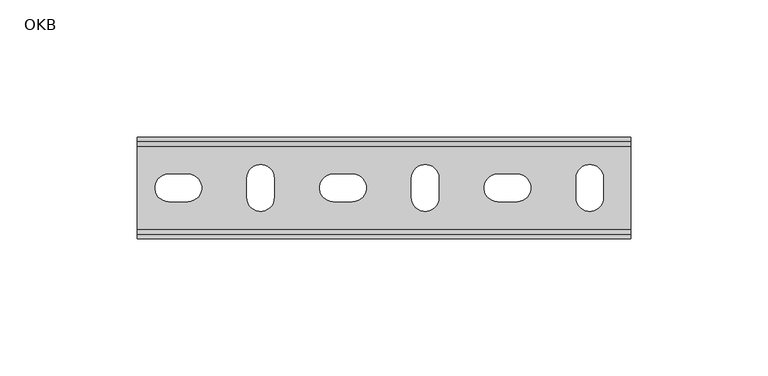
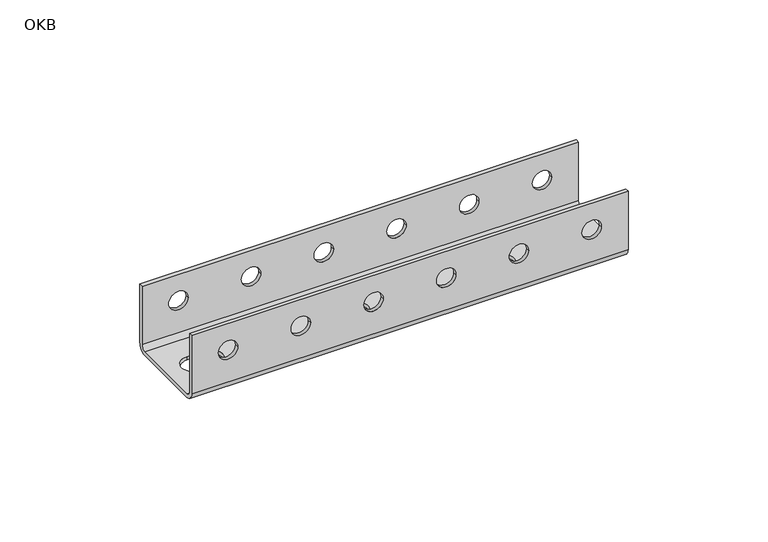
"""IFC4 building model written with IfcOpenShell, lengths in millimetres: proxy geometry, КМ Профиль_Опоры для консолей ОКМ, ОКВ : OKB."""

from ifc_helpers import new_model, si_unit, frame, origin, place, context, project, spatial, polyline, circle_curve, source, transform, mapped, element, save
from ifc_brep_helpers import plane_surface, cylinder_surface, revolved_surface, advanced_brep


def okb_c7ba4bf2(model_context):
    return source(origin(), model_context, "Body", "AdvancedBrep", [
        advanced_brep(
        [(0.0, 15.0, 0.0), (0.0, -15.0, 0.0), (0.0, -18.5, 3.5), (0.0, -18.5, 29.0), (0.0, -17.0, 29.0), (0.0, -17.0, 3.5), (0.0, -15.0, 1.5), (0.0, 15.0, 1.5), (0.0, 17.0, 3.5), (0.0, 17.0, 29.0), (0.0, 18.5, 29.0), (0.0, 18.5, 3.5), (180.0, -15.0, 0.0), (180.0, 15.0, 0.0), (180.0, 18.5, 3.5), (180.0, 18.5, 29.0), (180.0, 17.0, 29.0), (180.0, 17.0, 3.5), (180.0, 15.0, 1.5), (180.0, -15.0, 1.5), (180.0, -17.0, 3.5), (180.0, -17.0, 29.0), (180.0, -18.5, 29.0), (180.0, -18.5, 3.5), (71.5, -5.0, 0.0), (78.5, -5.0, 0.0), (78.5, 5.0, 0.0), (71.5, 5.0, 0.0), (131.5, -5.0, 0.0), (138.5, -5.0, 0.0), (138.5, 5.0, 0.0), (131.5, 5.0, 0.0), (100.0, 3.5, 0.0), (100.0, -3.5, 0.0), (110.0, -3.5, 0.0), (110.0, 3.5, 0.0), (160.0, 3.5, 0.0), (160.0, -3.5, 0.0), (170.0, -3.5, 0.0), (170.0, 3.5, 0.0), (40.0, 3.5, 0.0), (40.0, -3.5, 0.0), (50.0, -3.5, 0.0), (50.0, 3.5, 0.0), (11.5, -5.0, 0.0), (18.5, -5.0, 0.0), (18.5, 5.0, 0.0), (11.5, 5.0, 0.0), (49.0, -17.0, 17.5), (41.0, -17.0, 17.5), (79.0, -17.0, 17.5), (71.0, -17.0, 17.5), (109.0, -17.0, 17.5), (101.0, -17.0, 17.5), (139.0, -17.0, 17.5), (131.0, -17.0, 17.5), (169.0, -17.0, 17.5), (161.0, -17.0, 17.5), (19.0, -17.0, 17.5), (11.0, -17.0, 17.5), (41.0, -18.5, 17.5), (49.0, -18.5, 17.5), (71.0, -18.5, 17.5), (79.0, -18.5, 17.5), (101.0, -18.5, 17.5), (109.0, -18.5, 17.5), (131.0, -18.5, 17.5), (139.0, -18.5, 17.5), (161.0, -18.5, 17.5), (169.0, -18.5, 17.5), (11.0, -18.5, 17.5), (19.0, -18.5, 17.5), (78.5, -5.0, 1.5), (71.5, -5.0, 1.5), (71.5, 5.0, 1.5), (78.5, 5.0, 1.5), (138.5, -5.0, 1.5), (131.5, -5.0, 1.5), (131.5, 5.0, 1.5), (138.5, 5.0, 1.5), (100.0, -3.5, 1.5), (100.0, 3.5, 1.5), (110.0, 3.5, 1.5), (110.0, -3.5, 1.5), (160.0, -3.5, 1.5), (160.0, 3.5, 1.5), (170.0, 3.5, 1.5), (170.0, -3.5, 1.5), (40.0, -3.5, 1.5), (40.0, 3.5, 1.5), (50.0, 3.5, 1.5), (50.0, -3.5, 1.5), (18.5, -5.0, 1.5), (11.5, -5.0, 1.5), (11.5, 5.0, 1.5), (18.5, 5.0, 1.5), (49.0, 18.5, 17.5), (41.0, 18.5, 17.5), (79.0, 18.5, 17.5), (71.0, 18.5, 17.5), (109.0, 18.5, 17.5), (101.0, 18.5, 17.5), (139.0, 18.5, 17.5), (131.0, 18.5, 17.5), (169.0, 18.5, 17.5), (161.0, 18.5, 17.5), (19.0, 18.5, 17.5), (11.0, 18.5, 17.5), (41.0, 17.0, 17.5), (49.0, 17.0, 17.5), (71.0, 17.0, 17.5), (79.0, 17.0, 17.5), (101.0, 17.0, 17.5), (109.0, 17.0, 17.5), (131.0, 17.0, 17.5), (139.0, 17.0, 17.5), (161.0, 17.0, 17.5), (169.0, 17.0, 17.5), (11.0, 17.0, 17.5), (19.0, 17.0, 17.5)],
        [
            (0, 1),
            (1, 2, circle_curve(frame((0.0, -15.0, 3.5), z_axis=(-1.0, 0.0, 0.0), x_axis=(0.0, 1.0, 0.0)), 3.5)),
            (2, 3),
            (3, 4),
            (4, 5),
            (5, 6, circle_curve(frame((0.0, -15.0, 3.5), z_axis=(1.0, 0.0, 0.0), x_axis=(0.0, 1.0, 0.0)), 2.0)),
            (6, 7),
            (7, 8, circle_curve(frame((0.0, 15.0, 3.5), z_axis=(1.0, 0.0, 0.0), x_axis=(0.0, 1.0, 0.0)), 2.0)),
            (8, 9),
            (9, 10),
            (10, 11),
            (11, 0, circle_curve(frame((0.0, 15.0, 3.5), z_axis=(-1.0, 0.0, 0.0), x_axis=(0.0, 1.0, 0.0)), 3.5)),
            (12, 13),
            (13, 14, circle_curve(frame((180.0, 15.0, 3.5), z_axis=(1.0, 0.0, 0.0), x_axis=(0.0, 1.0, 0.0)), 3.5)),
            (14, 15),
            (15, 16),
            (16, 17),
            (17, 18, circle_curve(frame((180.0, 15.0, 3.5), z_axis=(-1.0, 0.0, 0.0), x_axis=(0.0, 1.0, 0.0)), 2.0)),
            (18, 19),
            (19, 20, circle_curve(frame((180.0, -15.0, 3.5), z_axis=(-1.0, 0.0, 0.0), x_axis=(0.0, 1.0, 0.0)), 2.0)),
            (20, 21),
            (21, 22),
            (22, 23),
            (23, 12, circle_curve(frame((180.0, -15.0, 3.5), z_axis=(1.0, 0.0, 0.0), x_axis=(0.0, 1.0, 0.0)), 3.5)),
            (0, 13),
            (12, 1),
            (24, 25),
            (25, 26, circle_curve(frame((78.5, 0.0, 0.0), z_axis=(0.0, 0.0, 1.0), x_axis=(1.0, 0.0, 0.0)), 5.0)),
            (26, 27),
            (27, 24, circle_curve(frame((71.5, 0.0, 0.0), z_axis=(0.0, 0.0, 1.0), x_axis=(1.0, 0.0, 0.0)), 5.0)),
            (28, 29),
            (29, 30, circle_curve(frame((138.5, 0.0, 0.0), z_axis=(0.0, 0.0, 1.0), x_axis=(1.0, 0.0, 0.0)), 5.0)),
            (30, 31),
            (31, 28, circle_curve(frame((131.5, 0.0, 0.0), z_axis=(0.0, 0.0, 1.0), x_axis=(1.0, 0.0, 0.0)), 5.0)),
            (32, 33),
            (33, 34, circle_curve(frame((105.0, -3.5, 0.0), z_axis=(0.0, 0.0, 1.0), x_axis=(0.0, -1.0, 0.0)), 5.0)),
            (34, 35),
            (35, 32, circle_curve(frame((105.0, 3.5, 0.0), z_axis=(0.0, 0.0, 1.0), x_axis=(0.0, -1.0, 0.0)), 5.0)),
            (36, 37),
            (37, 38, circle_curve(frame((165.0, -3.5, 0.0), z_axis=(0.0, 0.0, 1.0), x_axis=(0.0, -1.0, 0.0)), 5.0)),
            (38, 39),
            (39, 36, circle_curve(frame((165.0, 3.5, 0.0), z_axis=(0.0, 0.0, 1.0), x_axis=(0.0, -1.0, 0.0)), 5.0)),
            (40, 41),
            (41, 42, circle_curve(frame((45.0, -3.5, 0.0), z_axis=(0.0, 0.0, 1.0), x_axis=(0.0, -1.0, 0.0)), 5.0)),
            (42, 43),
            (43, 40, circle_curve(frame((45.0, 3.5, 0.0), z_axis=(0.0, 0.0, 1.0), x_axis=(0.0, -1.0, 0.0)), 5.0)),
            (44, 45),
            (45, 46, circle_curve(frame((18.5, 0.0, 0.0), z_axis=(0.0, 0.0, 1.0), x_axis=(1.0, 0.0, 0.0)), 5.0)),
            (46, 47),
            (47, 44, circle_curve(frame((11.5, 0.0, 0.0), z_axis=(0.0, 0.0, 1.0), x_axis=(1.0, 0.0, 0.0)), 5.0)),
            (4, 21),
            (20, 5),
            (48, 49, circle_curve(frame((45.0, -17.0, 17.5), z_axis=(0.0, -1.0, 0.0), x_axis=(1.0, 0.0, 0.0)), 4.0)),
            (49, 48, circle_curve(frame((45.0, -17.0, 17.5), z_axis=(0.0, -1.0, 0.0), x_axis=(1.0, 0.0, 0.0)), 4.0)),
            (50, 51, circle_curve(frame((75.0, -17.0, 17.5), z_axis=(0.0, -1.0, 0.0), x_axis=(1.0, 0.0, 0.0)), 4.0)),
            (51, 50, circle_curve(frame((75.0, -17.0, 17.5), z_axis=(0.0, -1.0, 0.0), x_axis=(1.0, 0.0, 0.0)), 4.0)),
            (52, 53, circle_curve(frame((105.0, -17.0, 17.5), z_axis=(0.0, -1.0, 0.0), x_axis=(1.0, 0.0, 0.0)), 4.0)),
            (53, 52, circle_curve(frame((105.0, -17.0, 17.5), z_axis=(0.0, -1.0, 0.0), x_axis=(1.0, 0.0, 0.0)), 4.0)),
            (54, 55, circle_curve(frame((135.0, -17.0, 17.5), z_axis=(0.0, -1.0, 0.0), x_axis=(1.0, 0.0, 0.0)), 4.0)),
            (55, 54, circle_curve(frame((135.0, -17.0, 17.5), z_axis=(0.0, -1.0, 0.0), x_axis=(1.0, 0.0, 0.0)), 4.0)),
            (56, 57, circle_curve(frame((165.0, -17.0, 17.5), z_axis=(0.0, -1.0, 0.0), x_axis=(1.0, 0.0, 0.0)), 4.0)),
            (57, 56, circle_curve(frame((165.0, -17.0, 17.5), z_axis=(0.0, -1.0, 0.0), x_axis=(1.0, 0.0, 0.0)), 4.0)),
            (58, 59, circle_curve(frame((15.0, -17.0, 17.5), z_axis=(0.0, -1.0, 0.0), x_axis=(1.0, 0.0, 0.0)), 4.0)),
            (59, 58, circle_curve(frame((15.0, -17.0, 17.5), z_axis=(0.0, -1.0, 0.0), x_axis=(1.0, 0.0, 0.0)), 4.0)),
            (3, 22),
            (2, 23),
            (60, 61, circle_curve(frame((45.0, -18.5, 17.5), z_axis=(0.0, 1.0, 0.0), x_axis=(1.0, 0.0, 0.0)), 4.0)),
            (61, 60, circle_curve(frame((45.0, -18.5, 17.5), z_axis=(0.0, 1.0, 0.0), x_axis=(1.0, 0.0, 0.0)), 4.0)),
            (62, 63, circle_curve(frame((75.0, -18.5, 17.5), z_axis=(0.0, 1.0, 0.0), x_axis=(1.0, 0.0, 0.0)), 4.0)),
            (63, 62, circle_curve(frame((75.0, -18.5, 17.5), z_axis=(0.0, 1.0, 0.0), x_axis=(1.0, 0.0, 0.0)), 4.0)),
            (64, 65, circle_curve(frame((105.0, -18.5, 17.5), z_axis=(0.0, 1.0, 0.0), x_axis=(1.0, 0.0, 0.0)), 4.0)),
            (65, 64, circle_curve(frame((105.0, -18.5, 17.5), z_axis=(0.0, 1.0, 0.0), x_axis=(1.0, 0.0, 0.0)), 4.0)),
            (66, 67, circle_curve(frame((135.0, -18.5, 17.5), z_axis=(0.0, 1.0, 0.0), x_axis=(1.0, 0.0, 0.0)), 4.0)),
            (67, 66, circle_curve(frame((135.0, -18.5, 17.5), z_axis=(0.0, 1.0, 0.0), x_axis=(1.0, 0.0, 0.0)), 4.0)),
            (68, 69, circle_curve(frame((165.0, -18.5, 17.5), z_axis=(0.0, 1.0, 0.0), x_axis=(1.0, 0.0, 0.0)), 4.0)),
            (69, 68, circle_curve(frame((165.0, -18.5, 17.5), z_axis=(0.0, 1.0, 0.0), x_axis=(1.0, 0.0, 0.0)), 4.0)),
            (70, 71, circle_curve(frame((15.0, -18.5, 17.5), z_axis=(0.0, 1.0, 0.0), x_axis=(1.0, 0.0, 0.0)), 4.0)),
            (71, 70, circle_curve(frame((15.0, -18.5, 17.5), z_axis=(0.0, 1.0, 0.0), x_axis=(1.0, 0.0, 0.0)), 4.0)),
            (6, 19),
            (18, 7),
            (72, 73),
            (73, 74, circle_curve(frame((71.5, 0.0, 1.5), z_axis=(0.0, 0.0, -1.0), x_axis=(1.0, 0.0, 0.0)), 5.0)),
            (74, 75),
            (75, 72, circle_curve(frame((78.5, 0.0, 1.5), z_axis=(0.0, 0.0, -1.0), x_axis=(1.0, 0.0, 0.0)), 5.0)),
            (76, 77),
            (77, 78, circle_curve(frame((131.5, 0.0, 1.5), z_axis=(0.0, 0.0, -1.0), x_axis=(1.0, 0.0, 0.0)), 5.0)),
            (78, 79),
            (79, 76, circle_curve(frame((138.5, 0.0, 1.5), z_axis=(0.0, 0.0, -1.0), x_axis=(1.0, 0.0, 0.0)), 5.0)),
            (80, 81),
            (81, 82, circle_curve(frame((105.0, 3.5, 1.5), z_axis=(0.0, 0.0, -1.0), x_axis=(0.0, -1.0, 0.0)), 5.0)),
            (82, 83),
            (83, 80, circle_curve(frame((105.0, -3.5, 1.5), z_axis=(0.0, 0.0, -1.0), x_axis=(0.0, -1.0, 0.0)), 5.0)),
            (84, 85),
            (85, 86, circle_curve(frame((165.0, 3.5, 1.5), z_axis=(0.0, 0.0, -1.0), x_axis=(0.0, -1.0, 0.0)), 5.0)),
            (86, 87),
            (87, 84, circle_curve(frame((165.0, -3.5, 1.5), z_axis=(0.0, 0.0, -1.0), x_axis=(0.0, -1.0, 0.0)), 5.0)),
            (88, 89),
            (89, 90, circle_curve(frame((45.0, 3.5, 1.5), z_axis=(0.0, 0.0, -1.0), x_axis=(0.0, -1.0, 0.0)), 5.0)),
            (90, 91),
            (91, 88, circle_curve(frame((45.0, -3.5, 1.5), z_axis=(0.0, 0.0, -1.0), x_axis=(0.0, -1.0, 0.0)), 5.0)),
            (92, 93),
            (93, 94, circle_curve(frame((11.5, 0.0, 1.5), z_axis=(0.0, 0.0, -1.0), x_axis=(1.0, 0.0, 0.0)), 5.0)),
            (94, 95),
            (95, 92, circle_curve(frame((18.5, 0.0, 1.5), z_axis=(0.0, 0.0, -1.0), x_axis=(1.0, 0.0, 0.0)), 5.0)),
            (10, 15),
            (14, 11),
            (96, 97, circle_curve(frame((45.0, 18.5, 17.5), z_axis=(0.0, -1.0, 0.0), x_axis=(1.0, 0.0, 0.0)), 4.0)),
            (97, 96, circle_curve(frame((45.0, 18.5, 17.5), z_axis=(0.0, -1.0, 0.0), x_axis=(1.0, 0.0, 0.0)), 4.0)),
            (98, 99, circle_curve(frame((75.0, 18.5, 17.5), z_axis=(0.0, -1.0, 0.0), x_axis=(1.0, 0.0, 0.0)), 4.0)),
            (99, 98, circle_curve(frame((75.0, 18.5, 17.5), z_axis=(0.0, -1.0, 0.0), x_axis=(1.0, 0.0, 0.0)), 4.0)),
            (100, 101, circle_curve(frame((105.0, 18.5, 17.5), z_axis=(0.0, -1.0, 0.0), x_axis=(1.0, 0.0, 0.0)), 4.0)),
            (101, 100, circle_curve(frame((105.0, 18.5, 17.5), z_axis=(0.0, -1.0, 0.0), x_axis=(1.0, 0.0, 0.0)), 4.0)),
            (102, 103, circle_curve(frame((135.0, 18.5, 17.5), z_axis=(0.0, -1.0, 0.0), x_axis=(1.0, 0.0, 0.0)), 4.0)),
            (103, 102, circle_curve(frame((135.0, 18.5, 17.5), z_axis=(0.0, -1.0, 0.0), x_axis=(1.0, 0.0, 0.0)), 4.0)),
            (104, 105, circle_curve(frame((165.0, 18.5, 17.5), z_axis=(0.0, -1.0, 0.0), x_axis=(1.0, 0.0, 0.0)), 4.0)),
            (105, 104, circle_curve(frame((165.0, 18.5, 17.5), z_axis=(0.0, -1.0, 0.0), x_axis=(1.0, 0.0, 0.0)), 4.0)),
            (106, 107, circle_curve(frame((15.0, 18.5, 17.5), z_axis=(0.0, -1.0, 0.0), x_axis=(1.0, 0.0, 0.0)), 4.0)),
            (107, 106, circle_curve(frame((15.0, 18.5, 17.5), z_axis=(0.0, -1.0, 0.0), x_axis=(1.0, 0.0, 0.0)), 4.0)),
            (9, 16),
            (8, 17),
            (108, 109, circle_curve(frame((45.0, 17.0, 17.5), z_axis=(0.0, 1.0, 0.0), x_axis=(1.0, 0.0, 0.0)), 4.0)),
            (109, 108, circle_curve(frame((45.0, 17.0, 17.5), z_axis=(0.0, 1.0, 0.0), x_axis=(1.0, 0.0, 0.0)), 4.0)),
            (110, 111, circle_curve(frame((75.0, 17.0, 17.5), z_axis=(0.0, 1.0, 0.0), x_axis=(1.0, 0.0, 0.0)), 4.0)),
            (111, 110, circle_curve(frame((75.0, 17.0, 17.5), z_axis=(0.0, 1.0, 0.0), x_axis=(1.0, 0.0, 0.0)), 4.0)),
            (112, 113, circle_curve(frame((105.0, 17.0, 17.5), z_axis=(0.0, 1.0, 0.0), x_axis=(1.0, 0.0, 0.0)), 4.0)),
            (113, 112, circle_curve(frame((105.0, 17.0, 17.5), z_axis=(0.0, 1.0, 0.0), x_axis=(1.0, 0.0, 0.0)), 4.0)),
            (114, 115, circle_curve(frame((135.0, 17.0, 17.5), z_axis=(0.0, 1.0, 0.0), x_axis=(1.0, 0.0, 0.0)), 4.0)),
            (115, 114, circle_curve(frame((135.0, 17.0, 17.5), z_axis=(0.0, 1.0, 0.0), x_axis=(1.0, 0.0, 0.0)), 4.0)),
            (116, 117, circle_curve(frame((165.0, 17.0, 17.5), z_axis=(0.0, 1.0, 0.0), x_axis=(1.0, 0.0, 0.0)), 4.0)),
            (117, 116, circle_curve(frame((165.0, 17.0, 17.5), z_axis=(0.0, 1.0, 0.0), x_axis=(1.0, 0.0, 0.0)), 4.0)),
            (118, 119, circle_curve(frame((15.0, 17.0, 17.5), z_axis=(0.0, 1.0, 0.0), x_axis=(1.0, 0.0, 0.0)), 4.0)),
            (119, 118, circle_curve(frame((15.0, 17.0, 17.5), z_axis=(0.0, 1.0, 0.0), x_axis=(1.0, 0.0, 0.0)), 4.0)),
            (48, 61),
            (60, 49),
            (108, 97),
            (96, 109),
            (62, 51),
            (50, 63),
            (110, 99),
            (98, 111),
            (64, 53),
            (52, 65),
            (112, 101),
            (100, 113),
            (66, 55),
            (54, 67),
            (114, 103),
            (102, 115),
            (68, 57),
            (56, 69),
            (116, 105),
            (104, 117),
            (24, 73),
            (72, 25),
            (27, 74),
            (26, 75),
            (28, 77),
            (76, 29),
            (31, 78),
            (30, 79),
            (32, 81),
            (80, 33),
            (35, 82),
            (34, 83),
            (36, 85),
            (84, 37),
            (39, 86),
            (38, 87),
            (40, 89),
            (88, 41),
            (43, 90),
            (42, 91),
            (44, 93),
            (92, 45),
            (47, 94),
            (46, 95),
            (70, 59),
            (58, 71),
            (118, 107),
            (106, 119),
        ],
        [
            plane_surface(frame((0.0, 0.0, 0.0), z_axis=(-1.0, 0.0, 0.0), x_axis=(0.0, 0.0, 1.0))),
            plane_surface(frame((180.0, 0.0, 0.0), z_axis=(1.0, 0.0, 0.0), x_axis=(0.0, 0.0, 1.0))),
            plane_surface(frame((0.0, 15.0, 0.0), z_axis=(0.0, 0.0, -1.0), x_axis=(1.0, 0.0, 0.0))),
            plane_surface(frame((0.0, -17.0, 29.0), z_axis=(0.0, 1.0, 0.0), x_axis=(1.0, 0.0, 0.0))),
            plane_surface(frame((0.0, -18.5, 29.0), z_axis=(0.0, 0.0, 1.0), x_axis=(1.0, 0.0, 0.0))),
            plane_surface(frame((0.0, -18.5, 3.5), z_axis=(0.0, -1.0, 0.0), x_axis=(1.0, 0.0, 0.0))),
            plane_surface(frame((0.0, -15.0, 1.5), z_axis=(0.0, 0.0, 1.0), x_axis=(1.0, 0.0, 0.0))),
            plane_surface(frame((0.0, 18.5, 29.0), z_axis=(0.0, 1.0, 0.0), x_axis=(1.0, 0.0, 0.0))),
            plane_surface(frame((0.0, 17.0, 29.0), z_axis=(0.0, 0.0, 1.0), x_axis=(1.0, 0.0, 0.0))),
            plane_surface(frame((0.0, 17.0, 3.5), z_axis=(0.0, -1.0, 0.0), x_axis=(1.0, 0.0, 0.0))),
            cylinder_surface(frame((0.0, 15.0, 3.5), z_axis=(-1.0, 0.0, 0.0), x_axis=(0.0, 1.0, 0.0)), 3.5),
            cylinder_surface(frame((0.0, -15.0, 3.5), z_axis=(-1.0, 0.0, 0.0), x_axis=(0.0, 1.0, 0.0)), 3.5),
            revolved_surface(polyline([(180.0, -13.0, 3.5), (0.0, -13.0, 3.5)]), (0.0, -15.0, 3.5), (1.0, 0.0, 0.0)),
            revolved_surface(polyline([(180.0, 17.0, 3.5), (0.0, 17.0, 3.5)]), (0.0, 15.0, 3.5), (1.0, 0.0, 0.0)),
            revolved_surface(polyline([(49.0, -17.0, 17.5), (49.0, -18.5, 17.5)]), (45.0, -18.5, 17.5), (0.0, 1.0, 0.0)),
            revolved_surface(polyline([(49.0, 18.5, 17.5), (49.0, 17.0, 17.5)]), (45.0, -18.5, 17.5), (0.0, 1.0, 0.0)),
            revolved_surface(polyline([(79.0, -17.0, 17.5), (79.0, -18.5, 17.5)]), (75.0, -18.5, 17.5), (0.0, 1.0, 0.0)),
            revolved_surface(polyline([(79.0, 18.5, 17.5), (79.0, 17.0, 17.5)]), (75.0, -18.5, 17.5), (0.0, 1.0, 0.0)),
            revolved_surface(polyline([(109.0, -17.0, 17.5), (109.0, -18.5, 17.5)]), (105.0, -18.5, 17.5), (0.0, 1.0, 0.0)),
            revolved_surface(polyline([(109.0, 18.5, 17.5), (109.0, 17.0, 17.5)]), (105.0, -18.5, 17.5), (0.0, 1.0, 0.0)),
            revolved_surface(polyline([(139.0, -17.0, 17.5), (139.0, -18.5, 17.5)]), (135.0, -18.5, 17.5), (0.0, 1.0, 0.0)),
            revolved_surface(polyline([(139.0, 18.5, 17.5), (139.0, 17.0, 17.5)]), (135.0, -18.5, 17.5), (0.0, 1.0, 0.0)),
            revolved_surface(polyline([(169.0, -17.0, 17.5), (169.0, -18.5, 17.5)]), (165.0, -18.5, 17.5), (0.0, 1.0, 0.0)),
            revolved_surface(polyline([(169.0, 18.5, 17.5), (169.0, 17.0, 17.5)]), (165.0, -18.5, 17.5), (0.0, 1.0, 0.0)),
            plane_surface(frame((78.5, -5.0, 0.0), z_axis=(0.0, 1.0, 0.0), x_axis=(0.0, 0.0, 1.0))),
            revolved_surface(polyline([(76.5, 0.0, 0.0), (76.5, 0.0, 1.5)]), (71.5, 0.0, 1.5), (0.0, 0.0, -1.0)),
            plane_surface(frame((71.5, 5.0, 0.0), z_axis=(0.0, -1.0, 0.0), x_axis=(0.0, 0.0, 1.0))),
            revolved_surface(polyline([(83.5, 0.0, 0.0), (83.5, 0.0, 1.5)]), (78.5, 0.0, 1.5), (0.0, 0.0, -1.0)),
            plane_surface(frame((138.5, -5.0, 0.0), z_axis=(0.0, 1.0, 0.0), x_axis=(0.0, 0.0, 1.0))),
            revolved_surface(polyline([(136.5, 0.0, 0.0), (136.5, 0.0, 1.5)]), (131.5, 0.0, 1.5), (0.0, 0.0, -1.0)),
            plane_surface(frame((131.5, 5.0, 0.0), z_axis=(0.0, -1.0, 0.0), x_axis=(0.0, 0.0, 1.0))),
            revolved_surface(polyline([(143.5, 0.0, 0.0), (143.5, 0.0, 1.5)]), (138.5, 0.0, 1.5), (0.0, 0.0, -1.0)),
            plane_surface(frame((100.0, -3.5, 0.0), z_axis=(1.0, 0.0, 0.0), x_axis=(0.0, 0.0, 1.0))),
            revolved_surface(polyline([(105.0, -1.5, 0.0), (105.0, -1.5, 1.5)]), (105.0, 3.5, 1.5), (0.0, 0.0, -1.0)),
            plane_surface(frame((110.0, 3.5, 0.0), z_axis=(-1.0, 0.0, 0.0), x_axis=(0.0, 0.0, 1.0))),
            revolved_surface(polyline([(105.0, -8.5, 0.0), (105.0, -8.5, 1.5)]), (105.0, -3.5, 1.5), (0.0, 0.0, -1.0)),
            plane_surface(frame((160.0, -3.5, 0.0), z_axis=(1.0, 0.0, 0.0), x_axis=(0.0, 0.0, 1.0))),
            revolved_surface(polyline([(165.0, -1.5, 0.0), (165.0, -1.5, 1.5)]), (165.0, 3.5, 1.5), (0.0, 0.0, -1.0)),
            plane_surface(frame((170.0, 3.5, 0.0), z_axis=(-1.0, 0.0, 0.0), x_axis=(0.0, 0.0, 1.0))),
            revolved_surface(polyline([(165.0, -8.5, 0.0), (165.0, -8.5, 1.5)]), (165.0, -3.5, 1.5), (0.0, 0.0, -1.0)),
            plane_surface(frame((40.0, -3.5, 0.0), z_axis=(1.0, 0.0, 0.0), x_axis=(0.0, 0.0, 1.0))),
            revolved_surface(polyline([(45.0, -1.5, 0.0), (45.0, -1.5, 1.5)]), (45.0, 3.5, 1.5), (0.0, 0.0, -1.0)),
            plane_surface(frame((50.0, 3.5, 0.0), z_axis=(-1.0, 0.0, 0.0), x_axis=(0.0, 0.0, 1.0))),
            revolved_surface(polyline([(45.0, -8.5, 0.0), (45.0, -8.5, 1.5)]), (45.0, -3.5, 1.5), (0.0, 0.0, -1.0)),
            plane_surface(frame((18.5, -5.0, 0.0), z_axis=(0.0, 1.0, 0.0), x_axis=(0.0, 0.0, 1.0))),
            revolved_surface(polyline([(16.5, 0.0, 0.0), (16.5, 0.0, 1.5)]), (11.5, 0.0, 1.5), (0.0, 0.0, -1.0)),
            plane_surface(frame((11.5, 5.0, 0.0), z_axis=(0.0, -1.0, 0.0), x_axis=(0.0, 0.0, 1.0))),
            revolved_surface(polyline([(23.5, 0.0, 0.0), (23.5, 0.0, 1.5)]), (18.5, 0.0, 1.5), (0.0, 0.0, -1.0)),
            revolved_surface(polyline([(19.0, -17.0, 17.5), (19.0, -18.5, 17.5)]), (15.0, -18.5, 17.5), (0.0, 1.0, 0.0)),
            revolved_surface(polyline([(19.0, 18.5, 17.5), (19.0, 17.0, 17.5)]), (15.0, -18.5, 17.5), (0.0, 1.0, 0.0)),
        ],
        [
            (0, [[1, 2, 3, 4, 5, 6, 7, 8, 9, 10, 11, 12]]),
            (1, [[13, 14, 15, 16, 17, 18, 19, 20, 21, 22, 23, 24]]),
            (2, [[-1, 25, -13, 26], [27, 28, 29, 30], [31, 32, 33, 34], [35, 36, 37, 38], [39, 40, 41, 42], [43, 44, 45, 46], [47, 48, 49, 50]]),
            (3, [[-5, 51, -21, 52], [53, 54], [55, 56], [57, 58], [59, 60], [61, 62], [63, 64]]),
            (4, [[-4, 65, -22, -51]]),
            (5, [[-3, 66, -23, -65], [67, 68], [69, 70], [71, 72], [73, 74], [75, 76], [77, 78]]),
            (6, [[-7, 79, -19, 80], [81, 82, 83, 84], [85, 86, 87, 88], [89, 90, 91, 92], [93, 94, 95, 96], [97, 98, 99, 100], [101, 102, 103, 104]]),
            (7, [[-11, 105, -15, 106], [107, 108], [109, 110], [111, 112], [113, 114], [115, 116], [117, 118]]),
            (8, [[-10, 119, -16, -105]]),
            (9, [[-9, 120, -17, -119], [121, 122], [123, 124], [125, 126], [127, 128], [129, 130], [131, 132]]),
            (10, [[-12, -106, -14, -25]]),
            (11, [[-2, -26, -24, -66]]),
            (12, [[-6, -52, -20, -79]]),
            (13, [[-8, -80, -18, -120]]),
            (14, [[133, -67, 134, -53]]),
            (15, [[135, -107, 136, -121]]),
            (14, [[-133, -54, -134, -68]]),
            (15, [[-135, -122, -136, -108]]),
            (16, [[137, -55, 138, -69]]),
            (17, [[139, -109, 140, -123]]),
            (16, [[-137, -70, -138, -56]]),
            (17, [[-139, -124, -140, -110]]),
            (18, [[141, -57, 142, -71]]),
            (19, [[143, -111, 144, -125]]),
            (18, [[-141, -72, -142, -58]]),
            (19, [[-143, -126, -144, -112]]),
            (20, [[145, -59, 146, -73]]),
            (21, [[147, -113, 148, -127]]),
            (20, [[-145, -74, -146, -60]]),
            (21, [[-147, -128, -148, -114]]),
            (22, [[149, -61, 150, -75]]),
            (23, [[151, -115, 152, -129]]),
            (22, [[-149, -76, -150, -62]]),
            (23, [[-151, -130, -152, -116]]),
            (24, [[153, -81, 154, -27]]),
            (25, [[-153, -30, 155, -82]]),
            (26, [[-155, -29, 156, -83]]),
            (27, [[-154, -84, -156, -28]]),
            (28, [[157, -85, 158, -31]]),
            (29, [[-157, -34, 159, -86]]),
            (30, [[-159, -33, 160, -87]]),
            (31, [[-158, -88, -160, -32]]),
            (32, [[161, -89, 162, -35]]),
            (33, [[-161, -38, 163, -90]]),
            (34, [[-163, -37, 164, -91]]),
            (35, [[-162, -92, -164, -36]]),
            (36, [[165, -93, 166, -39]]),
            (37, [[-165, -42, 167, -94]]),
            (38, [[-167, -41, 168, -95]]),
            (39, [[-166, -96, -168, -40]]),
            (40, [[169, -97, 170, -43]]),
            (41, [[-169, -46, 171, -98]]),
            (42, [[-171, -45, 172, -99]]),
            (43, [[-170, -100, -172, -44]]),
            (44, [[173, -101, 174, -47]]),
            (45, [[-173, -50, 175, -102]]),
            (46, [[-175, -49, 176, -103]]),
            (47, [[-174, -104, -176, -48]]),
            (48, [[177, -63, 178, -77]]),
            (49, [[179, -117, 180, -131]]),
            (48, [[-177, -78, -178, -64]]),
            (49, [[-179, -132, -180, -118]]),
        ],
    ),
    ])


if __name__ == "__main__":
    model = new_model("IFC4")
    model_context = context("Model", 3, world=origin())
    ifc_project = project(units=[si_unit("LENGTHUNIT", "METRE", prefix="MILLI")], contexts=[model_context])
    site = spatial("IfcSite", under=ifc_project)
    building = spatial("IfcBuilding", under=site)
    placement = place(None, origin())
    okb_shape = okb_c7ba4bf2(model_context)
    element("IfcBuildingElementProxy", 1, Name="КМ Профиль_Опоры для консолей ОКМ, ОКВ : OKB", ObjectType="КМ Профиль_Опоры для консолей ОКМ, ОКВ : OKB", at=placement, inside=building, context=model_context, shape_type="MappedRepresentation", body=[
        mapped(okb_shape, transform((0.0, 0.0, 0.0), x_axis=(1.0, 0.0, 0.0), y_axis=(0.0, 1.0, 0.0), z_axis=(0.0, 0.0, 1.0))),
    ])
    save(model, "model.ifc")
